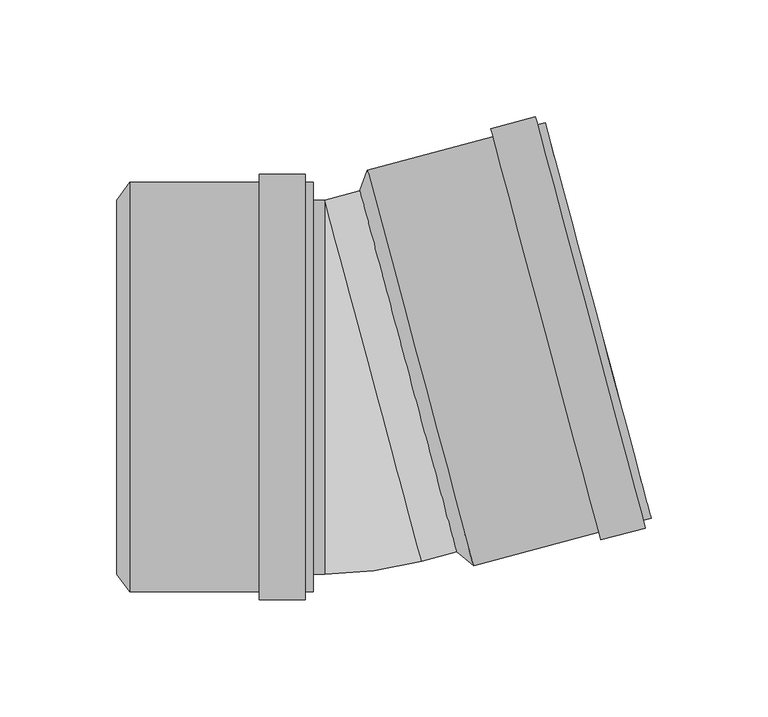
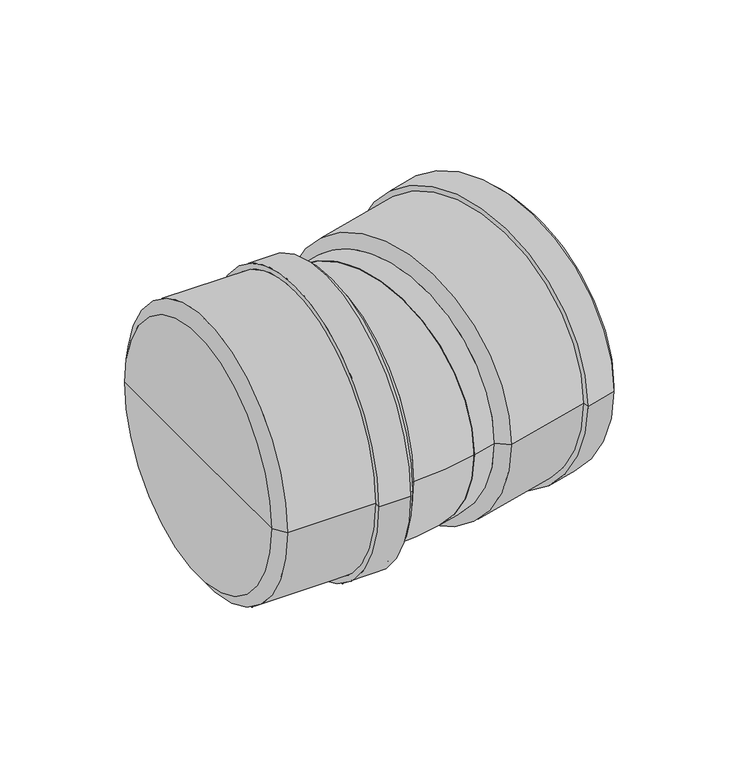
"""IFC4 building model written with IfcOpenShell, lengths in millimetres: pipe fitting geometry, pf_KGB : pf_KGB."""

from ifc_helpers import new_model, si_unit, point, frame, origin, origin_2d, place, context, project, spatial, polyline, circle_curve, ellipse_curve, trimmed, segment, composite_curve, outline, extrude, source, transform, mapped, element, save
from ifc_brep_helpers import plane_surface, cylinder_surface, revolved_surface, advanced_brep


def pipe_fitting_d901568e(model_context):
    return source(origin(), model_context, "Body", "SolidModel", [
        advanced_brep(
        [(45.9161877, -70.518889, 0.0), (4.5051405, 84.0292432, 0.0), (7.7541152, 92.7679023, 0.0), (53.0992119, -76.4623025, 0.0), (25.2106641, 6.7551771, 0.0), (129.0209818, -56.1191255, 0.0), (83.6758851, 113.1110792, 0.0), (85.6429099, 105.770043, 0.0), (127.0539571, -48.7780892, 0.0), (80.3917373, 112.2310945, 0.0), (125.736834, -56.9991103, 0.0), (79.5117526, 115.5152423, 0.0), (126.6168188, -60.2832581, 0.0), (60.4830138, 110.4165071, 0.0), (107.58808, -65.3819933, 0.0), (61.3629985, 107.1323593, 0.0), (106.7080952, -62.0978455, 0.0), (51.1321871, -69.1212662, 0.0), (9.7211399, 85.426866, 0.0), (30.4266635, 8.1527999, 0.0)],
        [
            (0, 1, circle_curve(frame((25.2106641, 6.7551771, 0.0), z_axis=(0.9659258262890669, 0.25881904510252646, 0.0), x_axis=(-0.25881904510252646, 0.9659258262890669, 0.0)), 80.0)),
            (1, 2),
            (2, 3, circle_curve(frame((30.4266635, 8.1527999, 0.0), z_axis=(-0.9659258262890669, -0.25881904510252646, 0.0), x_axis=(-0.25881904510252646, 0.9659258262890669, 0.0)), 87.6)),
            (3, 0),
            (1, 0, circle_curve(frame((25.2106641, 6.7551771, 0.0), z_axis=(0.9659258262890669, 0.25881904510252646, 0.0), x_axis=(-0.25881904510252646, 0.9659258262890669, 0.0)), 80.0)),
            (3, 2, circle_curve(frame((30.4266635, 8.1527999, 0.0), z_axis=(-0.9659258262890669, -0.25881904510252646, 0.0), x_axis=(-0.25881904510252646, 0.9659258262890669, 0.0)), 87.6)),
            (4, 1),
            (0, 4),
            (5, 6, circle_curve(frame((106.3484335, 28.4959769, 0.0), z_axis=(0.9659258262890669, 0.25881904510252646, 0.0), x_axis=(-0.25881904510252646, 0.9659258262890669, 0.0)), 87.6)),
            (6, 7),
            (7, 8, circle_curve(frame((106.3484335, 28.4959769, 0.0), z_axis=(-0.9659258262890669, -0.25881904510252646, 0.0), x_axis=(-0.25881904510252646, 0.9659258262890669, 0.0)), 80.0)),
            (8, 5),
            (9, 10, circle_curve(frame((103.0642857, 27.6159921, 0.0), z_axis=(0.9659258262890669, 0.25881904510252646, 0.0), x_axis=(-0.25881904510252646, 0.9659258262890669, 0.0)), 87.6)),
            (10, 5),
            (5, 6, circle_curve(frame((106.3484335, 28.4959769, 0.0), z_axis=(-0.9659258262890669, -0.25881904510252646, 0.0), x_axis=(-0.25881904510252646, 0.9659258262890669, 0.0)), 87.6)),
            (6, 9),
            (11, 12, circle_curve(frame((103.0642857, 27.6159921, 0.0), z_axis=(0.9659258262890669, 0.25881904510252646, 0.0), x_axis=(-0.25881904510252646, 0.9659258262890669, 0.0)), 91.0)),
            (12, 10),
            (9, 11),
            (13, 14, circle_curve(frame((84.0355469, 22.5172569, 0.0), z_axis=(0.9659258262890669, 0.25881904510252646, 0.0), x_axis=(-0.25881904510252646, 0.9659258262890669, 0.0)), 91.0)),
            (14, 12),
            (11, 13),
            (15, 16, circle_curve(frame((84.0355469, 22.5172569, 0.0), z_axis=(0.9659258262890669, 0.25881904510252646, 0.0), x_axis=(-0.25881904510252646, 0.9659258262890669, 0.0)), 87.6)),
            (16, 14),
            (13, 15),
            (8, 7, circle_curve(frame((106.3484335, 28.4959769, 0.0), z_axis=(-0.9659258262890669, -0.25881904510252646, 0.0), x_axis=(-0.25881904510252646, 0.9659258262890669, 0.0)), 80.0)),
            (10, 9, circle_curve(frame((103.0642857, 27.6159921, 0.0), z_axis=(0.9659258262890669, 0.25881904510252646, 0.0), x_axis=(-0.25881904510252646, 0.9659258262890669, 0.0)), 87.6)),
            (12, 11, circle_curve(frame((103.0642857, 27.6159921, 0.0), z_axis=(0.9659258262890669, 0.25881904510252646, 0.0), x_axis=(-0.25881904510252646, 0.9659258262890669, 0.0)), 91.0)),
            (14, 13, circle_curve(frame((84.0355469, 22.5172569, 0.0), z_axis=(0.9659258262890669, 0.25881904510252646, 0.0), x_axis=(-0.25881904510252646, 0.9659258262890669, 0.0)), 91.0)),
            (16, 15, circle_curve(frame((84.0355469, 22.5172569, 0.0), z_axis=(0.9659258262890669, 0.25881904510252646, 0.0), x_axis=(-0.25881904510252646, 0.9659258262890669, 0.0)), 87.6)),
            (2, 15),
            (16, 3),
            (17, 18, circle_curve(frame((30.4266635, 8.1527999, 0.0), z_axis=(0.9659258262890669, 0.25881904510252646, 0.0), x_axis=(-0.25881904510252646, 0.9659258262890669, 0.0)), 80.0)),
            (18, 19),
            (19, 17),
            (18, 17, circle_curve(frame((30.4266635, 8.1527999, 0.0), z_axis=(0.9659258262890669, 0.25881904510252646, 0.0), x_axis=(-0.25881904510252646, 0.9659258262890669, 0.0)), 80.0)),
            (7, 18),
            (17, 8),
        ],
        [
            revolved_surface(polyline([(7.7541152, 92.7679023, 0.0), (4.5051405, 84.0292432, 0.0)]), (25.2106641, 6.7551771, 0.0), (-0.9659258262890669, -0.25881904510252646, 0.0)),
            plane_surface(frame((25.2106641, 6.7551771, 0.0), z_axis=(-0.9659258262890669, -0.25881904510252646, 0.0), x_axis=(-0.25881904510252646, 0.9659258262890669, 0.0))),
            plane_surface(frame((106.3484335, 28.4959769, 0.0), z_axis=(0.9659258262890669, 0.25881904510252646, 0.0), x_axis=(-0.25881904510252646, 0.9659258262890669, 0.0))),
            cylinder_surface(frame((25.2106641, 6.7551771, 0.0), z_axis=(-0.9659258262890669, -0.25881904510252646, 0.0), x_axis=(-0.25881904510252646, 0.9659258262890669, 0.0)), 87.6),
            plane_surface(frame((103.0642857, 27.6159921, 0.0), z_axis=(0.9659258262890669, 0.25881904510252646, 0.0), x_axis=(-0.25881904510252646, 0.9659258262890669, 0.0))),
            cylinder_surface(frame((25.2106641, 6.7551771, 0.0), z_axis=(-0.9659258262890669, -0.25881904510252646, 0.0), x_axis=(-0.25881904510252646, 0.9659258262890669, 0.0)), 91.0),
            plane_surface(frame((84.0355469, 22.5172569, 0.0), z_axis=(-0.9659258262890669, -0.25881904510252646, 0.0), x_axis=(-0.25881904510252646, 0.9659258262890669, 0.0))),
            plane_surface(frame((30.4266635, 8.1527999, 0.0), z_axis=(0.9659258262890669, 0.25881904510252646, 0.0), x_axis=(-0.25881904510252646, 0.9659258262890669, 0.0))),
            revolved_surface(polyline([(9.721139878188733, 85.42686602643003, 0.0), (85.64290990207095, 105.77004299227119, 0.0)]), (25.2106641, 6.7551771, 0.0), (-0.9659258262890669, -0.25881904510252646, 0.0)),
        ],
        [
            (0, [[1, 2, 3, 4]]),
            (0, [[5, -4, 6, -2]]),
            (1, [[7, -1, 8]]),
            (1, [[-8, -5, -7]]),
            (2, [[9, 10, 11, 12]]),
            (3, [[13, 14, 15, 16]]),
            (4, [[17, 18, -13, 19]]),
            (5, [[20, 21, -17, 22]]),
            (6, [[23, 24, -20, 25]]),
            (2, [[-15, -12, 26, -10]]),
            (3, [[27, -16, -9, -14]]),
            (4, [[28, -19, -27, -18]]),
            (5, [[29, -22, -28, -21]]),
            (6, [[30, -25, -29, -24]]),
            (3, [[-3, 31, -30, 32]]),
            (3, [[-6, -32, -23, -31]]),
            (7, [[33, 34, 35]]),
            (7, [[36, -35, -34]]),
            (8, [[-11, 37, -33, 38]]),
            (8, [[-26, -38, -36, -37]]),
        ],
    ),
        advanced_brep(
        [(-99.4, -80.0, 0.0), (-99.4, 80.0, 0.0), (-94.0, 87.6, 0.0), (-94.0, -87.6, 0.0), (-99.4, 0.0, 0.0), (-15.4, -87.6, 0.0), (-15.4, 87.6, 0.0), (-15.4, 80.0, 0.0), (-15.4, -80.0, 0.0), (-18.8, 87.6, 0.0), (-18.8, -87.6, 0.0), (-18.8, 91.0, 0.0), (-18.8, -91.0, 0.0), (-38.5, 91.0, 0.0), (-38.5, -91.0, 0.0), (-38.5, 87.6, 0.0), (-38.5, -87.6, 0.0), (-94.0, -80.0, 0.0), (-94.0, 80.0, 0.0), (-94.0, 0.0, 0.0)],
        [
            (0, 1, circle_curve(frame((-99.4, 0.0, 0.0), z_axis=(1.0, 0.0, 0.0), x_axis=(0.0, 1.0, 0.0)), 80.0)),
            (1, 2),
            (2, 3, circle_curve(frame((-94.0, 0.0, 0.0), z_axis=(-1.0, 0.0, 0.0), x_axis=(0.0, 1.0, 0.0)), 87.6)),
            (3, 0),
            (1, 0, circle_curve(frame((-99.4, 0.0, 0.0), z_axis=(1.0, 0.0, 0.0), x_axis=(0.0, 1.0, 0.0)), 80.0)),
            (3, 2, circle_curve(frame((-94.0, 0.0, 0.0), z_axis=(-1.0, 0.0, 0.0), x_axis=(0.0, 1.0, 0.0)), 87.6)),
            (4, 1),
            (0, 4),
            (5, 6, circle_curve(frame((-15.4, 0.0, 0.0), z_axis=(1.0, 0.0, 0.0), x_axis=(0.0, 1.0, 0.0)), 87.6)),
            (6, 7),
            (7, 8, circle_curve(frame((-15.4, 0.0, 0.0), z_axis=(-1.0, 0.0, 0.0), x_axis=(0.0, 1.0, 0.0)), 80.0)),
            (8, 5),
            (9, 10, circle_curve(frame((-18.8, 0.0, 0.0), z_axis=(1.0, 0.0, 0.0), x_axis=(0.0, 1.0, 0.0)), 87.6)),
            (10, 5),
            (5, 6, circle_curve(frame((-15.4, 0.0, 0.0), z_axis=(-1.0, 0.0, 0.0), x_axis=(0.0, 1.0, 0.0)), 87.6)),
            (6, 9),
            (11, 12, circle_curve(frame((-18.8, 0.0, 0.0), z_axis=(1.0, 0.0, 0.0), x_axis=(0.0, 1.0, 0.0)), 91.0)),
            (12, 10),
            (9, 11),
            (13, 14, circle_curve(frame((-38.5, 0.0, 0.0), z_axis=(1.0, 0.0, 0.0), x_axis=(0.0, 1.0, 0.0)), 91.0)),
            (14, 12),
            (11, 13),
            (15, 16, circle_curve(frame((-38.5, 0.0, 0.0), z_axis=(1.0, 0.0, 0.0), x_axis=(0.0, 1.0, 0.0)), 87.6)),
            (16, 14),
            (13, 15),
            (8, 7, circle_curve(frame((-15.4, 0.0, 0.0), z_axis=(-1.0, 0.0, 0.0), x_axis=(0.0, 1.0, 0.0)), 80.0)),
            (10, 9, circle_curve(frame((-18.8, 0.0, 0.0), z_axis=(1.0, 0.0, 0.0), x_axis=(0.0, 1.0, 0.0)), 87.6)),
            (12, 11, circle_curve(frame((-18.8, 0.0, 0.0), z_axis=(1.0, 0.0, 0.0), x_axis=(0.0, 1.0, 0.0)), 91.0)),
            (14, 13, circle_curve(frame((-38.5, 0.0, 0.0), z_axis=(1.0, 0.0, 0.0), x_axis=(0.0, 1.0, 0.0)), 91.0)),
            (16, 15, circle_curve(frame((-38.5, 0.0, 0.0), z_axis=(1.0, 0.0, 0.0), x_axis=(0.0, 1.0, 0.0)), 87.6)),
            (2, 15),
            (16, 3),
            (17, 18, circle_curve(frame((-94.0, 0.0, 0.0), z_axis=(1.0, 0.0, 0.0), x_axis=(0.0, 1.0, 0.0)), 80.0)),
            (18, 19),
            (19, 17),
            (18, 17, circle_curve(frame((-94.0, 0.0, 0.0), z_axis=(1.0, 0.0, 0.0), x_axis=(0.0, 1.0, 0.0)), 80.0)),
            (7, 18),
            (17, 8),
        ],
        [
            revolved_surface(polyline([(-94.0, 87.6, 0.0), (-99.4, 80.0, 0.0)]), (-99.4, 0.0, 0.0), (-1.0, 0.0, 0.0)),
            plane_surface(frame((-99.4, 0.0, 0.0), z_axis=(-1.0, 0.0, 0.0), x_axis=(0.0, 1.0, 0.0))),
            plane_surface(frame((-15.4, 0.0, 0.0), z_axis=(1.0, 0.0, 0.0), x_axis=(0.0, 1.0, 0.0))),
            cylinder_surface(frame((-99.4, 0.0, 0.0), z_axis=(-1.0, 0.0, 0.0), x_axis=(0.0, 1.0, 0.0)), 87.6),
            plane_surface(frame((-18.8, 0.0, 0.0), z_axis=(1.0, 0.0, 0.0), x_axis=(0.0, 1.0, 0.0))),
            cylinder_surface(frame((-99.4, 0.0, 0.0), z_axis=(-1.0, 0.0, 0.0), x_axis=(0.0, 1.0, 0.0)), 91.0),
            plane_surface(frame((-38.5, 0.0, 0.0), z_axis=(-1.0, 0.0, 0.0), x_axis=(0.0, 1.0, 0.0))),
            plane_surface(frame((-94.0, 0.0, 0.0), z_axis=(1.0, 0.0, 0.0), x_axis=(0.0, 1.0, 0.0))),
            revolved_surface(polyline([(-94.0, 80.0, 0.0), (-15.400000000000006, 80.0, 0.0)]), (-99.4, 0.0, 0.0), (-1.0, 0.0, 0.0)),
        ],
        [
            (0, [[1, 2, 3, 4]]),
            (0, [[5, -4, 6, -2]]),
            (1, [[7, -1, 8]]),
            (1, [[-8, -5, -7]]),
            (2, [[9, 10, 11, 12]]),
            (3, [[13, 14, 15, 16]]),
            (4, [[17, 18, -13, 19]]),
            (5, [[20, 21, -17, 22]]),
            (6, [[23, 24, -20, 25]]),
            (2, [[-15, -12, 26, -10]]),
            (3, [[27, -16, -9, -14]]),
            (4, [[28, -19, -27, -18]]),
            (5, [[29, -22, -28, -21]]),
            (6, [[30, -25, -29, -24]]),
            (3, [[-3, 31, -30, 32]]),
            (3, [[-6, -32, -23, -31]]),
            (7, [[33, 34, 35]]),
            (7, [[36, -35, -34]]),
            (8, [[-11, 37, -33, 38]]),
            (8, [[-26, -38, -36, -37]]),
        ],
    ),
        extrude(outline(composite_curve([segment(trimmed(circle_curve(origin_2d(), 80.0), [point((0.0, -80.0))], [point((0.0, 80.0))], False, "CARTESIAN"), True, "CONTINUOUS"), segment(trimmed(circle_curve(origin_2d(), 80.0), [point((0.0, 80.0))], [point((0.0, -80.0))], False, "CARTESIAN"), True, "CONTINUOUS")], self_intersect=False)), frame((10.1733238, 2.7259339, 0.0), z_axis=(0.9659258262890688, 0.2588190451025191, 0.0), x_axis=(0.0, 0.0, 1.0)), (0.0, 0.0, 1.0), 15.5678002),
        extrude(outline(composite_curve([segment(trimmed(circle_curve(origin_2d(), 80.0), [point((-80.0, 0.0))], [point((80.0, 0.0))], False, "CARTESIAN"), True, "CONTINUOUS"), segment(trimmed(circle_curve(origin_2d(), 80.0), [point((80.0, 0.0))], [point((-80.0, 0.0))], False, "CARTESIAN"), True, "CONTINUOUS")], self_intersect=False)), frame((-94.0, 0.0, 0.0), z_axis=(1.0, 0.0, 0.0), x_axis=(0.0, 1.0, 0.0)), (0.0, 0.0, 1.0), 83.4678002),
        advanced_brep(
        [(-10.5321998, -80.0, 0.0), (-10.5321998, 80.0, 0.0), (30.8788474, -74.5481322, 0.0)],
        [
            (0, 1, circle_curve(frame((-10.5321998, 0.0, 0.0), z_axis=(-1.0, 0.0, 0.0), x_axis=(0.0, 1.0, 0.0)), 80.0)),
            (1, 0, circle_curve(frame((-10.5321998, 0.0, 0.0), z_axis=(-1.0, 0.0, 0.0), x_axis=(0.0, 1.0, 0.0)), 80.0)),
            (2, 1, circle_curve(frame((10.1733238, 2.7259339, 0.0), z_axis=(0.9659258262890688, 0.25881904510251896, 0.0), x_axis=(-0.25881904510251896, 0.9659258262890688, 0.0)), 80.0)),
            (1, 2, circle_curve(frame((10.1733238, 2.7259339, 0.0), z_axis=(0.9659258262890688, 0.25881904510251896, 0.0), x_axis=(-0.25881904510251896, 0.9659258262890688, 0.0)), 80.0)),
            (2, 0, circle_curve(frame((-10.5321998, 80.0, 0.0), z_axis=(0.0, 0.0, -1.0), x_axis=(0.0, -1.0, 0.0)), 160.0)),
        ],
        [
            plane_surface(frame((-10.5321998, 80.0, -14.8), z_axis=(-1.0, 0.0, 0.0), x_axis=(0.0, -1.0, 0.0))),
            plane_surface(frame((-10.5321998, 80.0, -14.8), z_axis=(0.9659258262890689, 0.258819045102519, 0.0), x_axis=(0.258819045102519, -0.9659258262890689, 0.0))),
            revolved_surface(trimmed(ellipse_curve(frame((-10.5321998, 0.0, 0.0), z_axis=(1.0, 0.0, 0.0), x_axis=(0.0, 1.0, 0.0)), 80.0, 80.0), [point((-10.5321998, -80.0, 0.0))], [point((-10.5321998, 80.0, 0.0))], True, "CARTESIAN"), (-10.5321998, 80.0, -14.8), (0.0, 0.0, -1.0)),
            revolved_surface(trimmed(ellipse_curve(frame((-10.5321998, 0.0, 0.0), z_axis=(1.0, 0.0, 0.0), x_axis=(0.0, 1.0, 0.0)), 80.0, 80.0), [point((-10.5321998, 80.0, 0.0))], [point((-10.5321998, -80.0, 0.0))], True, "CARTESIAN"), (-10.5321998, 80.0, -14.8), (0.0, 0.0, -1.0)),
        ],
        [
            (0, [[1, 2]]),
            (1, [[3, 4]]),
            (2, [[5, -2, -3]]),
            (3, [[-1, -5, -4]]),
        ],
    ),
    ])


if __name__ == "__main__":
    model = new_model("IFC4")
    model_context = context("Model", 3, world=origin())
    ifc_project = project(units=[si_unit("LENGTHUNIT", "METRE", prefix="MILLI")], contexts=[model_context])
    site = spatial("IfcSite", under=ifc_project)
    building = spatial("IfcBuilding", under=site)
    placement = place(None, origin())
    pipe_fitting_shape = pipe_fitting_d901568e(model_context)
    element("IfcPipeFitting", 1, ObjectType="pf_KGB : pf_KGB", at=placement, inside=building, context=model_context, shape_type="MappedRepresentation", body=[
        mapped(pipe_fitting_shape, transform((0.0, 0.0, 0.0), x_axis=(1.0, 0.0, 0.0), y_axis=(0.0, 1.0, 0.0), z_axis=(0.0, 0.0, 1.0))),
    ])
    save(model, "model.ifc")
